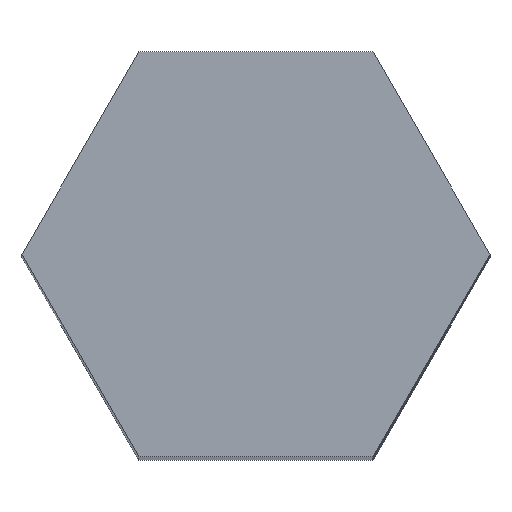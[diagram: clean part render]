
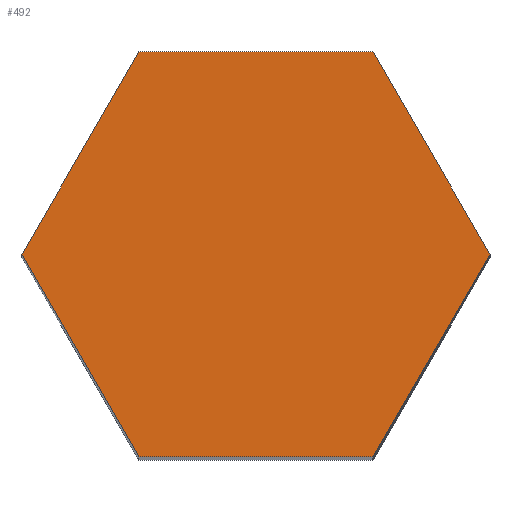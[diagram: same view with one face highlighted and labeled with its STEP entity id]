
A CAD part, top view. The second image highlights one B-rep face of the part: STEP entity #492.
In plain terms, the highlighted planar face has unit normal (0, 0, 1).
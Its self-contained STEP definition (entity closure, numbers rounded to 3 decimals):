
#24 = VERTEX_POINT('',#25);
#25 = CARTESIAN_POINT('',(22.85,0.,200.));
#32 = PLANE('',#33);
#33 = AXIS2_PLACEMENT_3D('',#34,#35,#36);
#34 = CARTESIAN_POINT('',(22.85,0.,0.));
#35 = DIRECTION('',(-0.866,-0.5,0.));
#36 = DIRECTION('',(-0.5,0.866,0.));
#44 = PLANE('',#45);
#45 = AXIS2_PLACEMENT_3D('',#46,#47,#48);
#46 = CARTESIAN_POINT('',(11.425,-19.789,0.));
#47 = DIRECTION('',(-0.866,0.5,0.));
#48 = DIRECTION('',(0.5,0.866,0.));
#56 = EDGE_CURVE('',#24,#57,#59,.T.);
#57 = VERTEX_POINT('',#58);
#58 = CARTESIAN_POINT('',(11.425,19.789,200.));
#59 = SURFACE_CURVE('',#60,(#64,#71),.PCURVE_S1.);
#60 = LINE('',#61,#62);
#61 = CARTESIAN_POINT('',(22.85,0.,200.));
#62 = VECTOR('',#63,1.);
#63 = DIRECTION('',(-0.5,0.866,0.));
#64 = PCURVE('',#32,#65);
#65 = DEFINITIONAL_REPRESENTATION('',(#66),#70);
#66 = LINE('',#67,#68);
#67 = CARTESIAN_POINT('',(0.,-200.));
#68 = VECTOR('',#69,1.);
#69 = DIRECTION('',(1.,0.));
#70 = ( GEOMETRIC_REPRESENTATION_CONTEXT(2) 
PARAMETRIC_REPRESENTATION_CONTEXT() REPRESENTATION_CONTEXT('2D SPACE',''
  ) );
#71 = PCURVE('',#72,#77);
#72 = PLANE('',#73);
#73 = AXIS2_PLACEMENT_3D('',#74,#75,#76);
#74 = CARTESIAN_POINT('',(0.,0.,200.)
  );
#75 = DIRECTION('',(0.,0.,1.));
#76 = DIRECTION('',(1.,0.,-0.));
#77 = DEFINITIONAL_REPRESENTATION('',(#78),#82);
#78 = LINE('',#79,#80);
#79 = CARTESIAN_POINT('',(22.85,0.));
#80 = VECTOR('',#81,1.);
#81 = DIRECTION('',(-0.5,0.866));
#82 = ( GEOMETRIC_REPRESENTATION_CONTEXT(2) 
PARAMETRIC_REPRESENTATION_CONTEXT() REPRESENTATION_CONTEXT('2D SPACE',''
  ) );
#100 = PLANE('',#101);
#101 = AXIS2_PLACEMENT_3D('',#102,#103,#104);
#102 = CARTESIAN_POINT('',(11.425,19.789,0.));
#103 = DIRECTION('',(0.,-1.,0.));
#104 = DIRECTION('',(-1.,0.,0.));
#142 = EDGE_CURVE('',#57,#143,#145,.T.);
#143 = VERTEX_POINT('',#144);
#144 = CARTESIAN_POINT('',(-11.425,19.789,200.));
#145 = SURFACE_CURVE('',#146,(#150,#157),.PCURVE_S1.);
#146 = LINE('',#147,#148);
#147 = CARTESIAN_POINT('',(11.425,19.789,200.));
#148 = VECTOR('',#149,1.);
#149 = DIRECTION('',(-1.,0.,0.));
#150 = PCURVE('',#100,#151);
#151 = DEFINITIONAL_REPRESENTATION('',(#152),#156);
#152 = LINE('',#153,#154);
#153 = CARTESIAN_POINT('',(0.,-200.));
#154 = VECTOR('',#155,1.);
#155 = DIRECTION('',(1.,0.));
#156 = ( GEOMETRIC_REPRESENTATION_CONTEXT(2) 
PARAMETRIC_REPRESENTATION_CONTEXT() REPRESENTATION_CONTEXT('2D SPACE',''
  ) );
#157 = PCURVE('',#72,#158);
#158 = DEFINITIONAL_REPRESENTATION('',(#159),#163);
#159 = LINE('',#160,#161);
#160 = CARTESIAN_POINT('',(11.425,19.789));
#161 = VECTOR('',#162,1.);
#162 = DIRECTION('',(-1.,0.));
#163 = ( GEOMETRIC_REPRESENTATION_CONTEXT(2) 
PARAMETRIC_REPRESENTATION_CONTEXT() REPRESENTATION_CONTEXT('2D SPACE',''
  ) );
#181 = PLANE('',#182);
#182 = AXIS2_PLACEMENT_3D('',#183,#184,#185);
#183 = CARTESIAN_POINT('',(-11.425,19.789,0.));
#184 = DIRECTION('',(0.866,-0.5,0.));
#185 = DIRECTION('',(-0.5,-0.866,0.));
#218 = EDGE_CURVE('',#143,#219,#221,.T.);
#219 = VERTEX_POINT('',#220);
#220 = CARTESIAN_POINT('',(-22.85,0.,200.));
#221 = SURFACE_CURVE('',#222,(#226,#233),.PCURVE_S1.);
#222 = LINE('',#223,#224);
#223 = CARTESIAN_POINT('',(-11.425,19.789,200.));
#224 = VECTOR('',#225,1.);
#225 = DIRECTION('',(-0.5,-0.866,0.));
#226 = PCURVE('',#181,#227);
#227 = DEFINITIONAL_REPRESENTATION('',(#228),#232);
#228 = LINE('',#229,#230);
#229 = CARTESIAN_POINT('',(0.,-200.));
#230 = VECTOR('',#231,1.);
#231 = DIRECTION('',(1.,0.));
#232 = ( GEOMETRIC_REPRESENTATION_CONTEXT(2) 
PARAMETRIC_REPRESENTATION_CONTEXT() REPRESENTATION_CONTEXT('2D SPACE',''
  ) );
#233 = PCURVE('',#72,#234);
#234 = DEFINITIONAL_REPRESENTATION('',(#235),#239);
#235 = LINE('',#236,#237);
#236 = CARTESIAN_POINT('',(-11.425,19.789));
#237 = VECTOR('',#238,1.);
#238 = DIRECTION('',(-0.5,-0.866));
#239 = ( GEOMETRIC_REPRESENTATION_CONTEXT(2) 
PARAMETRIC_REPRESENTATION_CONTEXT() REPRESENTATION_CONTEXT('2D SPACE',''
  ) );
#257 = PLANE('',#258);
#258 = AXIS2_PLACEMENT_3D('',#259,#260,#261);
#259 = CARTESIAN_POINT('',(-22.85,0.,0.));
#260 = DIRECTION('',(0.866,0.5,-0.));
#261 = DIRECTION('',(0.5,-0.866,0.));
#294 = EDGE_CURVE('',#219,#295,#297,.T.);
#295 = VERTEX_POINT('',#296);
#296 = CARTESIAN_POINT('',(-11.425,-19.789,200.));
#297 = SURFACE_CURVE('',#298,(#302,#309),.PCURVE_S1.);
#298 = LINE('',#299,#300);
#299 = CARTESIAN_POINT('',(-22.85,0.,200.));
#300 = VECTOR('',#301,1.);
#301 = DIRECTION('',(0.5,-0.866,0.));
#302 = PCURVE('',#257,#303);
#303 = DEFINITIONAL_REPRESENTATION('',(#304),#308);
#304 = LINE('',#305,#306);
#305 = CARTESIAN_POINT('',(0.,-200.));
#306 = VECTOR('',#307,1.);
#307 = DIRECTION('',(1.,0.));
#308 = ( GEOMETRIC_REPRESENTATION_CONTEXT(2) 
PARAMETRIC_REPRESENTATION_CONTEXT() REPRESENTATION_CONTEXT('2D SPACE',''
  ) );
#309 = PCURVE('',#72,#310);
#310 = DEFINITIONAL_REPRESENTATION('',(#311),#315);
#311 = LINE('',#312,#313);
#312 = CARTESIAN_POINT('',(-22.85,0.));
#313 = VECTOR('',#314,1.);
#314 = DIRECTION('',(0.5,-0.866));
#315 = ( GEOMETRIC_REPRESENTATION_CONTEXT(2) 
PARAMETRIC_REPRESENTATION_CONTEXT() REPRESENTATION_CONTEXT('2D SPACE',''
  ) );
#333 = PLANE('',#334);
#334 = AXIS2_PLACEMENT_3D('',#335,#336,#337);
#335 = CARTESIAN_POINT('',(-11.425,-19.789,0.));
#336 = DIRECTION('',(0.,1.,-0.));
#337 = DIRECTION('',(1.,0.,0.));
#370 = EDGE_CURVE('',#295,#371,#373,.T.);
#371 = VERTEX_POINT('',#372);
#372 = CARTESIAN_POINT('',(11.425,-19.789,200.));
#373 = SURFACE_CURVE('',#374,(#378,#385),.PCURVE_S1.);
#374 = LINE('',#375,#376);
#375 = CARTESIAN_POINT('',(-11.425,-19.789,200.));
#376 = VECTOR('',#377,1.);
#377 = DIRECTION('',(1.,0.,0.));
#378 = PCURVE('',#333,#379);
#379 = DEFINITIONAL_REPRESENTATION('',(#380),#384);
#380 = LINE('',#381,#382);
#381 = CARTESIAN_POINT('',(0.,-200.));
#382 = VECTOR('',#383,1.);
#383 = DIRECTION('',(1.,0.));
#384 = ( GEOMETRIC_REPRESENTATION_CONTEXT(2) 
PARAMETRIC_REPRESENTATION_CONTEXT() REPRESENTATION_CONTEXT('2D SPACE',''
  ) );
#385 = PCURVE('',#72,#386);
#386 = DEFINITIONAL_REPRESENTATION('',(#387),#391);
#387 = LINE('',#388,#389);
#388 = CARTESIAN_POINT('',(-11.425,-19.789));
#389 = VECTOR('',#390,1.);
#390 = DIRECTION('',(1.,0.));
#391 = ( GEOMETRIC_REPRESENTATION_CONTEXT(2) 
PARAMETRIC_REPRESENTATION_CONTEXT() REPRESENTATION_CONTEXT('2D SPACE',''
  ) );
#441 = EDGE_CURVE('',#371,#24,#442,.T.);
#442 = SURFACE_CURVE('',#443,(#447,#454),.PCURVE_S1.);
#443 = LINE('',#444,#445);
#444 = CARTESIAN_POINT('',(11.425,-19.789,200.));
#445 = VECTOR('',#446,1.);
#446 = DIRECTION('',(0.5,0.866,0.));
#447 = PCURVE('',#44,#448);
#448 = DEFINITIONAL_REPRESENTATION('',(#449),#453);
#449 = LINE('',#450,#451);
#450 = CARTESIAN_POINT('',(0.,-200.));
#451 = VECTOR('',#452,1.);
#452 = DIRECTION('',(1.,0.));
#453 = ( GEOMETRIC_REPRESENTATION_CONTEXT(2) 
PARAMETRIC_REPRESENTATION_CONTEXT() REPRESENTATION_CONTEXT('2D SPACE',''
  ) );
#454 = PCURVE('',#72,#455);
#455 = DEFINITIONAL_REPRESENTATION('',(#456),#460);
#456 = LINE('',#457,#458);
#457 = CARTESIAN_POINT('',(11.425,-19.789));
#458 = VECTOR('',#459,1.);
#459 = DIRECTION('',(0.5,0.866));
#460 = ( GEOMETRIC_REPRESENTATION_CONTEXT(2) 
PARAMETRIC_REPRESENTATION_CONTEXT() REPRESENTATION_CONTEXT('2D SPACE',''
  ) );
#492 = ADVANCED_FACE('',(#493),#72,.T.);
#493 = FACE_BOUND('',#494,.T.);
#494 = EDGE_LOOP('',(#495,#496,#497,#498,#499,#500));
#495 = ORIENTED_EDGE('',*,*,#56,.T.);
#496 = ORIENTED_EDGE('',*,*,#142,.T.);
#497 = ORIENTED_EDGE('',*,*,#218,.T.);
#498 = ORIENTED_EDGE('',*,*,#294,.T.);
#499 = ORIENTED_EDGE('',*,*,#370,.T.);
#500 = ORIENTED_EDGE('',*,*,#441,.T.);
